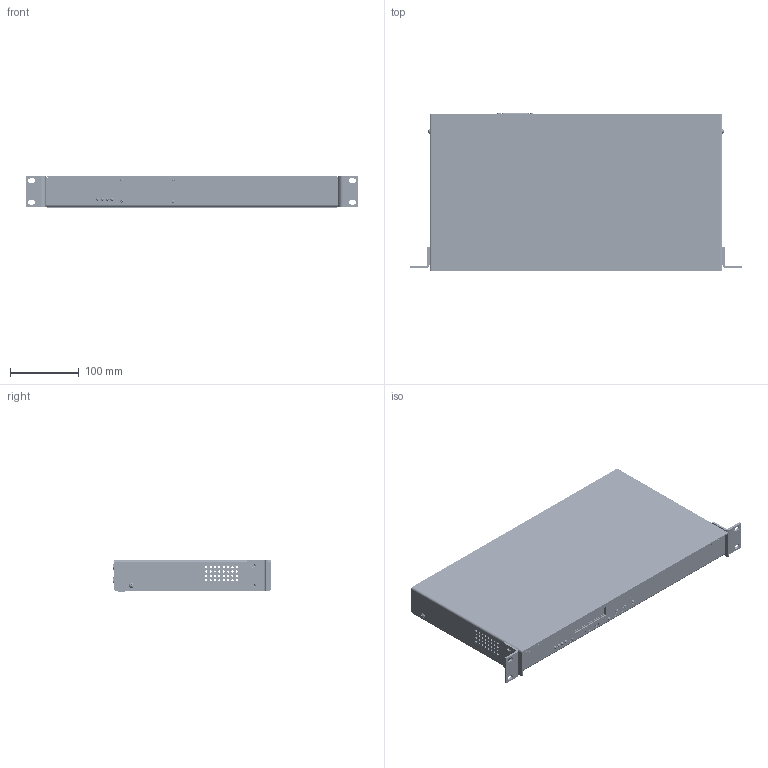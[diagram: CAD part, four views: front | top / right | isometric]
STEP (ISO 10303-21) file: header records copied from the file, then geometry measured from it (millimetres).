
FILE_DESCRIPTION(/* description */ (''),/* implementation_level */ '2;1');
FILE_NAME(/* name */ 'C:/Users/brook/OneDrive/Desktop/Sync2 Rackmounted.step',/* time_stamp */ '2022-06-06T09:15:21-04:00',/* author */ (''),/* organization */ (''),/* preprocessor_version */ 'ST-DEVELOPER v19',/* originating_system */ 'Autodesk Translation Framework v11.7.0.108',/* authorisation */ '');
FILE_SCHEMA (('AUTOMOTIVE_DESIGN { 1 0 10303 214 3 1 1 }'));
Products named in the file (43): Master Assembly Rackmount; Base Rackmount; CLS-832-2-PennEngineering-3D-06-03-2022; Rear Panel Rackmount; IO Panel; Rackmount Cover; 713008; 708004; Standard Bracket; 91771A191_Passivated 18-8 Stainless Steel Phillips Flat Head Screw; 91771A191_Passivated 18-8 Stainless Steel Phillips Flat Head Screw (1
); 91771A191_Passivated 18-8 Stainless Steel Phillips Flat Head Screw (2
); 91771A191_Passivated 18-8 Stainless Steel Phillips Flat Head Screw (3
); 91772A081_Passivated 18-8 Stainless Steel Pan Head Phillips Screw; LCD Spacer; LCD LCM-X01602DXX/A; 715000; 93090A210_Press-Fit Threaded Standoffs; 180005_PCB-B; 710008; 708020; 91780A526_Female Threaded Hex Standoff; 702027; RJ45; Component1; Red PCB; 17 Pin Header RabitCore Connector; 17 Pin RapitCore Connector v2(Mirror); 713104; _FTSH-105-01-F-DV-A_body; _FTSH-105-01-F-DV_pins1; _FTSH-105-01-F-DV_pins2; 713103; 713103_1; _MMS-117-02-DV-A_socket; _C-63-02-17-DV; 710003; 710001; 715016; K42X-B25S-S-A4NJ_rA3 ...
Assembly tree (94 placements, depth 5):
  Master Assembly Rackmount
    Base Rackmount
      CLS-832-2-PennEngineering-3D-06-03-2022  x4
    Rear Panel Rackmount
    IO Panel  x2
    Rackmount Cover
    713008
    708004
    Standard Bracket  x2
    91771A191_Passivated 18-8 Stainless Steel Phillips Flat Head Screw
    91771A191_Passivated 18-8 Stainless Steel Phillips Flat Head Screw (1
)
    91771A191_Passivated 18-8 Stainless Steel Phillips Flat Head Screw (2
)
    91771A191_Passivated 18-8 Stainless Steel Phillips Flat Head Screw (3
)
    91772A081_Passivated 18-8 Stainless Steel Pan Head Phillips Screw  x4
    90730A003_18-8 Stainless Steel Narrow Hex Nut  x12
    LCD Spacer  x4
    LCD LCM-X01602DXX/A
    715000  x4
    715016  x4
    93090A210_Press-Fit Threaded Standoffs  x6
    180005_PCB-B
      710008  x4
      708020  x3
      91780A526_Female Threaded Hex Standoff
      702027
        RJ45
          Component1
        Red PCB
        17 Pin Header RabitCore Connector
        17 Pin RapitCore Connector v2(Mirror)
        713104
          _FTSH-105-01-F-DV-A_body
          _FTSH-105-01-F-DV_pins1
          _FTSH-105-01-F-DV_pins2
      713103
        _MMS-117-02-DV-A_socket
        _C-63-02-17-DV
      713103_1
        _MMS-117-02-DV-A_socket
        _C-63-02-17-DV
      710003
      710001
      715016  x7
    K42X-B25S-S-A4NJ_rA3
    91771A107_Passivated 18-8 Stainless Steel Phillips Flat Head Screw  x5
    90272A144_Zinc-Plated Steel Pan Head Phillips Screw  x2
Bounding box: 482.6 x 230.95 x 46 mm (x, y, z)
Volume: 501060.8 mm3; surface area: 636347.4 mm2
Topology: 180 solids, 184 shells, 15621 faces, 41950 edges, 27306 vertices
Faces by surface type: plane 8905, bspline 3375, cylinder 2588, cone 492, torus 189, sphere 72
Full cylindrical faces by diameter (mm): 0.635 x4, 0.65 x12, 0.885 x1, 0.889 x2, 0.925 x1, 1 x16, 1.2 x50, 1.4 x4, 1.595 x120, 1.6 x7, 2.02 x190, 2.184 x140, 2.271 x8, 2.474 x10, 2.5 x4, 2.54 x1, 2.6 x3, 2.76 x4, 2.845 x199, 2.9 x6, 3 x7, 3.1 x2, 3.134 x20, 3.14 x4, 3.175 x76, 3.307 x4, 3.4 x4, 3.416 x4, 3.48 x8, 3.5 x3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
Entity records: 450772 total; most frequent: CARTESIAN_POINT 160145, ORIENTED_EDGE 65174, DIRECTION 46434, EDGE_CURVE 32587, LINE 22442, VECTOR 22442, VERTEX_POINT 21252, EDGE_LOOP 13405
